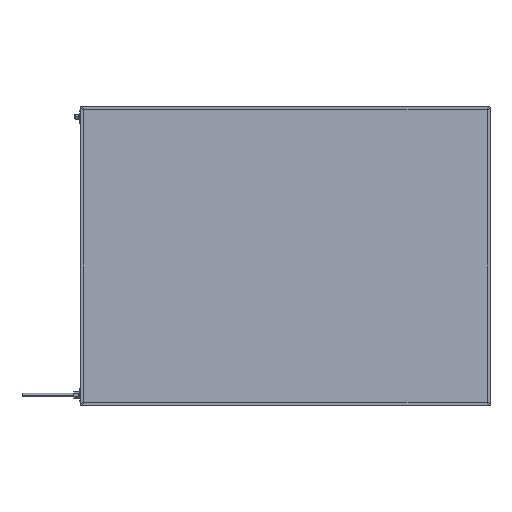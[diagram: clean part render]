
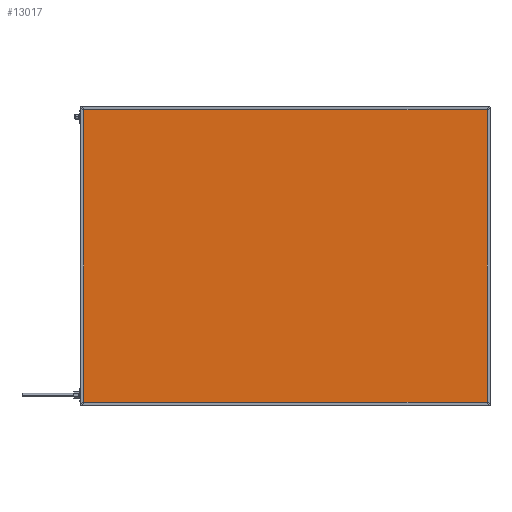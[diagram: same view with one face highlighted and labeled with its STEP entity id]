
A CAD part, top view. The second image highlights one B-rep face of the part: STEP entity #13017.
In plain terms, the highlighted planar face has unit normal (0, 0, 1).
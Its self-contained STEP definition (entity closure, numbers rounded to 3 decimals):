
#1205 = ORIENTED_EDGE ( 'NONE', *, *, #8599, .T. ) ;
#1464 = ORIENTED_EDGE ( 'NONE', *, *, #4870, .T. ) ;
#1963 = LINE ( 'NONE', #10363, #5337 ) ;
#2338 = PLANE ( 'NONE',  #15920 ) ;
#2955 = VECTOR ( 'NONE', #15260, 1000. ) ;
#3568 = VECTOR ( 'NONE', #14495, 1000. ) ;
#3708 = CARTESIAN_POINT ( 'NONE',  ( 1096., 0., 41.85 ) ) ;
#4068 = DIRECTION ( 'NONE',  ( 0., 0., -1. ) ) ;
#4169 = CARTESIAN_POINT ( 'NONE',  ( 4., 4., 41.85 ) ) ;
#4220 = LINE ( 'NONE', #17988, #2955 ) ;
#4388 = VERTEX_POINT ( 'NONE', #13139 ) ;
#4745 = EDGE_LOOP ( 'NONE', ( #14856, #8204, #1464, #1205 ) ) ;
#4870 = EDGE_CURVE ( 'NONE', #17226, #15838, #4220, .T. ) ;
#5337 = VECTOR ( 'NONE', #14822, 1000. ) ;
#6505 = VECTOR ( 'NONE', #14845, 1000. ) ;
#6807 = EDGE_CURVE ( 'NONE', #14230, #4388, #10654, .T. ) ;
#8204 = ORIENTED_EDGE ( 'NONE', *, *, #8245, .T. ) ;
#8245 = EDGE_CURVE ( 'NONE', #4388, #17226, #9101, .T. ) ;
#8417 = CARTESIAN_POINT ( 'NONE',  ( 1096., 4., 41.85 ) ) ;
#8599 = EDGE_CURVE ( 'NONE', #15838, #14230, #1963, .T. ) ;
#9101 = LINE ( 'NONE', #17664, #3568 ) ;
#9376 = FACE_OUTER_BOUND ( 'NONE', #4745, .T. ) ;
#10363 = CARTESIAN_POINT ( 'NONE',  ( 0., 4., 41.85 ) ) ;
#10654 = LINE ( 'NONE', #3708, #6505 ) ;
#10919 = CARTESIAN_POINT ( 'NONE',  ( 0., 0., 41.85 ) ) ;
#12288 = DIRECTION ( 'NONE',  ( -1., 0., 0. ) ) ;
#13017 = ADVANCED_FACE ( 'NONE', ( #9376 ), #2338, .F. ) ;
#13139 = CARTESIAN_POINT ( 'NONE',  ( 1096., 796., 41.85 ) ) ;
#14230 = VERTEX_POINT ( 'NONE', #8417 ) ;
#14495 = DIRECTION ( 'NONE',  ( -1., 0., 0. ) ) ;
#14822 = DIRECTION ( 'NONE',  ( 1., 0., 0. ) ) ;
#14845 = DIRECTION ( 'NONE',  ( 0., 1., 0. ) ) ;
#14856 = ORIENTED_EDGE ( 'NONE', *, *, #6807, .T. ) ;
#15260 = DIRECTION ( 'NONE',  ( 0., -1., 0. ) ) ;
#15497 = CARTESIAN_POINT ( 'NONE',  ( 4., 796., 41.85 ) ) ;
#15838 = VERTEX_POINT ( 'NONE', #4169 ) ;
#15920 = AXIS2_PLACEMENT_3D ( 'NONE', #10919, #4068, #12288 ) ;
#17226 = VERTEX_POINT ( 'NONE', #15497 ) ;
#17664 = CARTESIAN_POINT ( 'NONE',  ( 0., 796., 41.85 ) ) ;
#17988 = CARTESIAN_POINT ( 'NONE',  ( 4., 0., 41.85 ) ) ;
